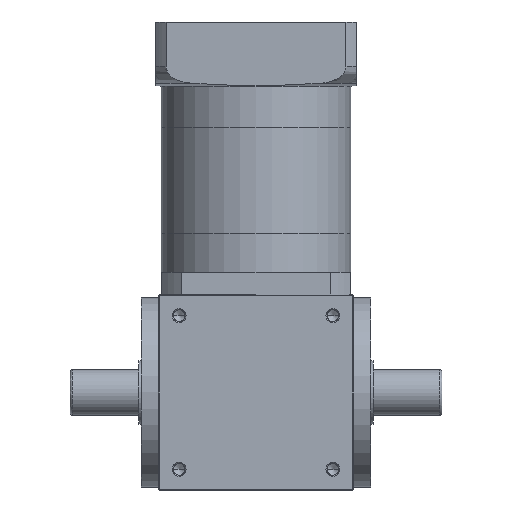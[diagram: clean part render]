
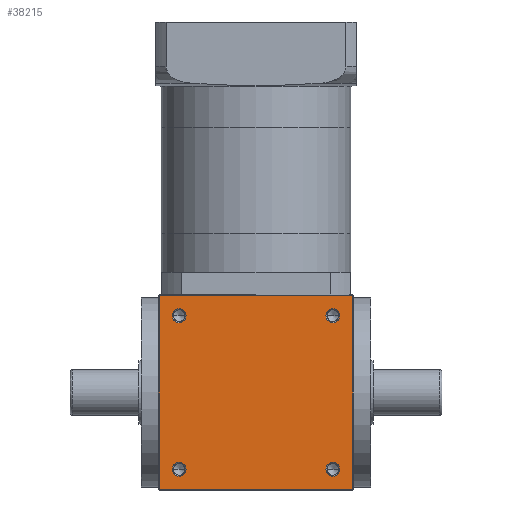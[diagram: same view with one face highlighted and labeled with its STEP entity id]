
A CAD part, front view. The second image highlights one B-rep face of the part: STEP entity #38215.
In plain terms, the highlighted planar face has unit normal (0, -1, 0).
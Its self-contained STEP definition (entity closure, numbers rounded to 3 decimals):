
#1164 = CIRCLE ( 'NONE', #6846, 6.025 ) ;
#1698 = ORIENTED_EDGE ( 'NONE', *, *, #18512, .F. ) ;
#1924 = DIRECTION ( 'NONE',  ( 0., 0., -1. ) ) ;
#2396 = CARTESIAN_POINT ( 'NONE',  ( -67., -85., 18. ) ) ;
#2427 = CIRCLE ( 'NONE', #45000, 6.025 ) ;
#2506 = VERTEX_POINT ( 'NONE', #10015 ) ;
#2534 = DIRECTION ( 'NONE',  ( 0., -1., 0. ) ) ;
#3529 = VERTEX_POINT ( 'NONE', #53759 ) ;
#5079 = EDGE_LOOP ( 'NONE', ( #31822, #24758 ) ) ;
#5301 = DIRECTION ( 'NONE',  ( 0., 0., 1. ) ) ;
#5877 = CARTESIAN_POINT ( 'NONE',  ( -84.5, -85., 170. ) ) ;
#6327 = FACE_BOUND ( 'NONE', #53056, .T. ) ;
#6448 = AXIS2_PLACEMENT_3D ( 'NONE', #22527, #52590, #26828 ) ;
#6846 = AXIS2_PLACEMENT_3D ( 'NONE', #2396, #33094, #7465 ) ;
#7458 = DIRECTION ( 'NONE',  ( 0., 0., -1. ) ) ;
#7465 = DIRECTION ( 'NONE',  ( 0., 0., -1. ) ) ;
#7593 = CARTESIAN_POINT ( 'NONE',  ( -67., -85., 18. ) ) ;
#10015 = CARTESIAN_POINT ( 'NONE',  ( -84.5, -85., 169.5 ) ) ;
#10308 = AXIS2_PLACEMENT_3D ( 'NONE', #24964, #55075, #29323 ) ;
#10397 = VERTEX_POINT ( 'NONE', #31214 ) ;
#11799 = CARTESIAN_POINT ( 'NONE',  ( 84.5, -85., 0.5 ) ) ;
#11864 = EDGE_CURVE ( 'NONE', #38529, #55481, #42719, .T. ) ;
#11877 = DIRECTION ( 'NONE',  ( 0., 0., -1. ) ) ;
#13621 = CARTESIAN_POINT ( 'NONE',  ( -67., -85., 11.975 ) ) ;
#13988 = CIRCLE ( 'NONE', #39617, 6.025 ) ;
#14757 = CARTESIAN_POINT ( 'NONE',  ( 67., -85., 152. ) ) ;
#15070 = VERTEX_POINT ( 'NONE', #22386 ) ;
#16239 = LINE ( 'NONE', #18473, #37670 ) ;
#16952 = VERTEX_POINT ( 'NONE', #23331 ) ;
#17099 = EDGE_CURVE ( 'NONE', #25554, #21230, #54436, .T. ) ;
#17647 = FACE_BOUND ( 'NONE', #28638, .T. ) ;
#18191 = AXIS2_PLACEMENT_3D ( 'NONE', #19473, #49548, #23791 ) ;
#18473 = CARTESIAN_POINT ( 'NONE',  ( -85., -85., 0.5 ) ) ;
#18512 = EDGE_CURVE ( 'NONE', #23518, #3529, #13988, .T. ) ;
#19036 = DIRECTION ( 'NONE',  ( 0., 0., -1. ) ) ;
#19473 = CARTESIAN_POINT ( 'NONE',  ( 67., -85., 18. ) ) ;
#19639 = LINE ( 'NONE', #5877, #41142 ) ;
#21230 = VERTEX_POINT ( 'NONE', #11799 ) ;
#21478 = VECTOR ( 'NONE', #7458, 1000. ) ;
#22318 = ORIENTED_EDGE ( 'NONE', *, *, #43767, .F. ) ;
#22386 = CARTESIAN_POINT ( 'NONE',  ( -67., -85., 24.025 ) ) ;
#22527 = CARTESIAN_POINT ( 'NONE',  ( -67., -85., 152. ) ) ;
#22560 = DIRECTION ( 'NONE',  ( 0., 1., 0. ) ) ;
#22571 = ORIENTED_EDGE ( 'NONE', *, *, #17099, .F. ) ;
#22769 = DIRECTION ( 'NONE',  ( -1., 0., 0. ) ) ;
#23330 = EDGE_CURVE ( 'NONE', #29163, #15070, #36453, .T. ) ;
#23331 = CARTESIAN_POINT ( 'NONE',  ( -67., -85., 158.025 ) ) ;
#23518 = VERTEX_POINT ( 'NONE', #39732 ) ;
#23791 = DIRECTION ( 'NONE',  ( 0., 0., -1. ) ) ;
#24725 = CIRCLE ( 'NONE', #27101, 6.025 ) ;
#24758 = ORIENTED_EDGE ( 'NONE', *, *, #27888, .F. ) ;
#24964 = CARTESIAN_POINT ( 'NONE',  ( -67., -85., 152. ) ) ;
#25552 = ORIENTED_EDGE ( 'NONE', *, *, #52400, .F. ) ;
#25554 = VERTEX_POINT ( 'NONE', #38476 ) ;
#25603 = EDGE_LOOP ( 'NONE', ( #22318, #22571, #38379, #25552 ) ) ;
#25766 = VECTOR ( 'NONE', #36726, 1000. ) ;
#26046 = CIRCLE ( 'NONE', #10308, 6.025 ) ;
#26528 = EDGE_CURVE ( 'NONE', #3529, #23518, #24725, .T. ) ;
#26677 = CIRCLE ( 'NONE', #6448, 6.025 ) ;
#26828 = DIRECTION ( 'NONE',  ( 0., 0., -1. ) ) ;
#27101 = AXIS2_PLACEMENT_3D ( 'NONE', #14757, #44775, #19036 ) ;
#27133 = LINE ( 'NONE', #32458, #25766 ) ;
#27528 = DIRECTION ( 'NONE',  ( 0., -1., 0. ) ) ;
#27888 = EDGE_CURVE ( 'NONE', #16952, #10397, #26046, .T. ) ;
#27987 = AXIS2_PLACEMENT_3D ( 'NONE', #48313, #22560, #52623 ) ;
#28136 = CARTESIAN_POINT ( 'NONE',  ( 67., -85., 152. ) ) ;
#28638 = EDGE_LOOP ( 'NONE', ( #1698, #29517 ) ) ;
#29163 = VERTEX_POINT ( 'NONE', #13621 ) ;
#29323 = DIRECTION ( 'NONE',  ( 0., 0., -1. ) ) ;
#29517 = ORIENTED_EDGE ( 'NONE', *, *, #26528, .F. ) ;
#30646 = ORIENTED_EDGE ( 'NONE', *, *, #41770, .F. ) ;
#31214 = CARTESIAN_POINT ( 'NONE',  ( -67., -85., 145.975 ) ) ;
#31655 = CARTESIAN_POINT ( 'NONE',  ( -84.5, -85., 0.5 ) ) ;
#31765 = EDGE_LOOP ( 'NONE', ( #46957, #54761 ) ) ;
#31822 = ORIENTED_EDGE ( 'NONE', *, *, #48136, .F. ) ;
#32458 = CARTESIAN_POINT ( 'NONE',  ( -85., -85., 169.5 ) ) ;
#32470 = DIRECTION ( 'NONE',  ( 0., 0., -1. ) ) ;
#33086 = CARTESIAN_POINT ( 'NONE',  ( 84.5, -85., 170. ) ) ;
#33094 = DIRECTION ( 'NONE',  ( 0., -1., 0. ) ) ;
#33224 = ORIENTED_EDGE ( 'NONE', *, *, #11864, .F. ) ;
#35943 = AXIS2_PLACEMENT_3D ( 'NONE', #7593, #37496, #11877 ) ;
#36453 = CIRCLE ( 'NONE', #35943, 6.025 ) ;
#36726 = DIRECTION ( 'NONE',  ( 1., 0., 0. ) ) ;
#37440 = EDGE_CURVE ( 'NONE', #2506, #25554, #27133, .T. ) ;
#37496 = DIRECTION ( 'NONE',  ( 0., -1., 0. ) ) ;
#37670 = VECTOR ( 'NONE', #22769, 1000. ) ;
#38215 = ADVANCED_FACE ( 'NONE', ( #44531, #17647, #6327, #50579, #39105 ), #52438, .F. ) ;
#38379 = ORIENTED_EDGE ( 'NONE', *, *, #37440, .F. ) ;
#38476 = CARTESIAN_POINT ( 'NONE',  ( 84.5, -85., 169.5 ) ) ;
#38529 = VERTEX_POINT ( 'NONE', #42041 ) ;
#39105 = FACE_OUTER_BOUND ( 'NONE', #25603, .T. ) ;
#39617 = AXIS2_PLACEMENT_3D ( 'NONE', #28136, #2534, #32470 ) ;
#39732 = CARTESIAN_POINT ( 'NONE',  ( 67., -85., 145.975 ) ) ;
#40707 = CARTESIAN_POINT ( 'NONE',  ( 67., -85., 11.975 ) ) ;
#41142 = VECTOR ( 'NONE', #5301, 1000. ) ;
#41770 = EDGE_CURVE ( 'NONE', #55481, #38529, #2427, .T. ) ;
#42041 = CARTESIAN_POINT ( 'NONE',  ( 67., -85., 24.025 ) ) ;
#42719 = CIRCLE ( 'NONE', #18191, 6.025 ) ;
#43767 = EDGE_CURVE ( 'NONE', #21230, #46277, #16239, .T. ) ;
#44531 = FACE_BOUND ( 'NONE', #5079, .T. ) ;
#44775 = DIRECTION ( 'NONE',  ( 0., -1., 0. ) ) ;
#45000 = AXIS2_PLACEMENT_3D ( 'NONE', #53282, #27528, #1924 ) ;
#46277 = VERTEX_POINT ( 'NONE', #31655 ) ;
#46957 = ORIENTED_EDGE ( 'NONE', *, *, #23330, .F. ) ;
#48136 = EDGE_CURVE ( 'NONE', #10397, #16952, #26677, .T. ) ;
#48313 = CARTESIAN_POINT ( 'NONE',  ( -85., -85., 170. ) ) ;
#49351 = EDGE_CURVE ( 'NONE', #15070, #29163, #1164, .T. ) ;
#49548 = DIRECTION ( 'NONE',  ( 0., -1., 0. ) ) ;
#50579 = FACE_BOUND ( 'NONE', #31765, .T. ) ;
#52400 = EDGE_CURVE ( 'NONE', #46277, #2506, #19639, .T. ) ;
#52438 = PLANE ( 'NONE',  #27987 ) ;
#52590 = DIRECTION ( 'NONE',  ( 0., -1., 0. ) ) ;
#52623 = DIRECTION ( 'NONE',  ( 0., 0., 1. ) ) ;
#53056 = EDGE_LOOP ( 'NONE', ( #30646, #33224 ) ) ;
#53282 = CARTESIAN_POINT ( 'NONE',  ( 67., -85., 18. ) ) ;
#53759 = CARTESIAN_POINT ( 'NONE',  ( 67., -85., 158.025 ) ) ;
#54436 = LINE ( 'NONE', #33086, #21478 ) ;
#54761 = ORIENTED_EDGE ( 'NONE', *, *, #49351, .F. ) ;
#55075 = DIRECTION ( 'NONE',  ( 0., -1., 0. ) ) ;
#55481 = VERTEX_POINT ( 'NONE', #40707 ) ;
